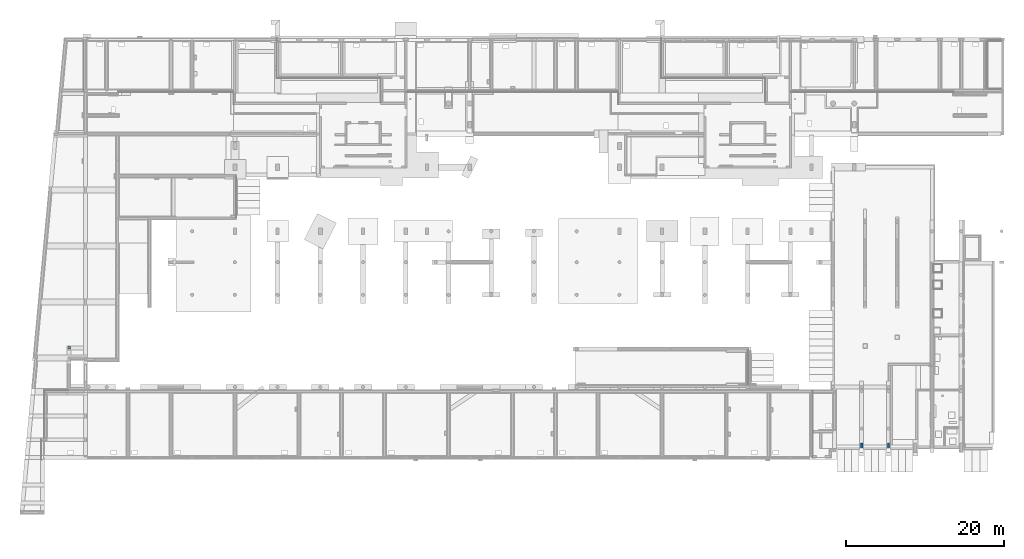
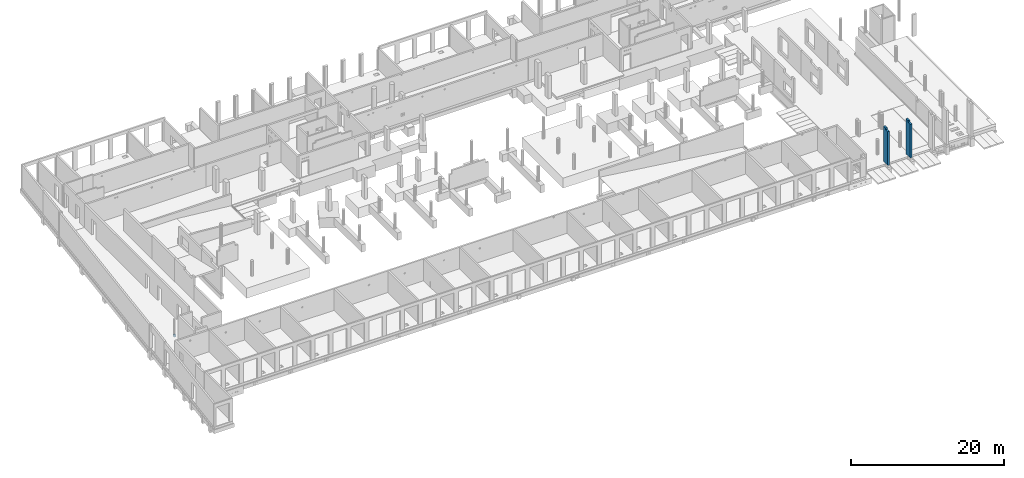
# One storey, part 16 of 60: 3 columns.
"""IFC2X3 building model written with IfcOpenShell, lengths in millimetres."""

from ifc_helpers import new_model, entity, si_unit, converted_unit, derived_unit, direction, frame, frame_2d, origin, place, context, subcontext, project, spatial, rectangle, extrude, faceted_brep, source, transform, mapped, material, type_object, type_shapes, element, save


model = new_model("IFC2X3")

# Units and contexts
model_context = context("Model", 3, precision=0.01, world=origin(), true_north=direction((6.12303176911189e-17, 1.0)))
body_context = subcontext(model_context, "Body", "Model", "MODEL_VIEW")
ifc_project = project(units=[si_unit("LENGTHUNIT", "METRE", prefix="MILLI"), si_unit("AREAUNIT", "SQUARE_METRE"), si_unit("VOLUMEUNIT", "CUBIC_METRE"), converted_unit("PLANEANGLEUNIT", "DEGREE", entity("IfcRatioMeasure", 0.0174532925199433), si_unit("PLANEANGLEUNIT", "RADIAN"), dimensions=[0, 0, 0, 0, 0, 0, 0]), si_unit("MASSUNIT", "GRAM", prefix="KILO"), derived_unit("MASSDENSITYUNIT", [(si_unit("MASSUNIT", "GRAM", prefix="KILO"), 1), (si_unit("LENGTHUNIT", "METRE"), -3)]), si_unit("TIMEUNIT", "SECOND"), si_unit("FREQUENCYUNIT", "HERTZ"), si_unit("THERMODYNAMICTEMPERATUREUNIT", "DEGREE_CELSIUS"), derived_unit("THERMALTRANSMITTANCEUNIT", [(si_unit("MASSUNIT", "GRAM", prefix="KILO"), 1), (si_unit("THERMODYNAMICTEMPERATUREUNIT", "KELVIN"), -1), (si_unit("TIMEUNIT", "SECOND"), -3)]), derived_unit("VOLUMETRICFLOWRATEUNIT", [(si_unit("LENGTHUNIT", "METRE"), 3), (si_unit("TIMEUNIT", "SECOND"), -1)]), si_unit("ELECTRICCURRENTUNIT", "AMPERE"), si_unit("ELECTRICVOLTAGEUNIT", "VOLT"), si_unit("POWERUNIT", "WATT"), si_unit("FORCEUNIT", "NEWTON", prefix="KILO"), si_unit("ILLUMINANCEUNIT", "LUX"), si_unit("LUMINOUSFLUXUNIT", "LUMEN"), si_unit("LUMINOUSINTENSITYUNIT", "CANDELA"), derived_unit("USERDEFINED", [(si_unit("MASSUNIT", "GRAM", prefix="KILO"), -1), (si_unit("LENGTHUNIT", "METRE"), -2), (si_unit("TIMEUNIT", "SECOND"), 3), (si_unit("LUMINOUSFLUXUNIT", "LUMEN"), 1)]), derived_unit("LINEARVELOCITYUNIT", [(si_unit("LENGTHUNIT", "METRE"), 1), (si_unit("TIMEUNIT", "SECOND"), -1)]), si_unit("PRESSUREUNIT", "PASCAL"), derived_unit("USERDEFINED", [(si_unit("LENGTHUNIT", "METRE"), -2), (si_unit("MASSUNIT", "GRAM", prefix="KILO"), 1), (si_unit("TIMEUNIT", "SECOND"), -2)])], contexts=[model_context])

# Site, building, storey
site_placement = place(None, origin())
site = spatial("IfcSite", under=ifc_project, at=site_placement, Name="Default", CompositionType="ELEMENT")
building_placement = place(site_placement, origin())
building = spatial("IfcBuilding", under=site, at=building_placement, Name="niet gebruiken", CompositionType="ELEMENT")
storey_placement = place(building_placement, origin())
storey = spatial("IfcBuildingStorey", under=building, at=storey_placement, Name="00 begane grond", CompositionType="ELEMENT", Elevation=0.0)

# Columns
ifc_material_1 = material(Name="NLRS_f2_beton prefab")
column_type_1 = type_object("IfcColumnType", Name="300x1100", PredefinedType="COLUMN", material=ifc_material_1)
shared_shape_1 = source(origin(), body_context, "Body", "Brep", [
    faceted_brep([(0.0, 0.0, 0.0), (300.0, 0.0, 0.0), (300.0, 0.0, 5360.0), (0.0, 0.0, 5360.0), (0.0, 1100.0, 5620.0), (300.0, 1100.0, 5620.0), (300.0, 1100.0, 0.0), (0.0, 1100.0, 0.0), (0.0, 570.0, 5620.0), (300.0, 570.0, 5620.0), (0.0, 570.0, 5360.0), (300.0, 570.0, 5360.0)], [[[0, 1, 2, 3]], [[4, 5, 6, 7]], [[5, 4, 8, 9]], [[6, 1, 0, 7]], [[7, 0, 3, 10, 8, 4]], [[1, 6, 5, 9, 11, 2]], [[10, 11, 9, 8]], [[11, 10, 3, 2]]]),
])
type_shapes(column_type_1, [shared_shape_1])
column_1_placement = place(storey_placement, frame((106050.000370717, 1000.0, -170.0)))
element("IfcColumn", 1, at=column_1_placement, inside=storey, type_object=column_type_1, material=ifc_material_1, Name="NLRS_28. kolom vierkant_gen1:300x1100", ObjectType="300x1100", context=body_context, shape_type="MappedRepresentation", body=[
    mapped(shared_shape_1, transform((0.0, 0.0, 0.0), scale=1.0)),
])
column_type_2 = type_object("IfcColumnType", Name="300x1100", PredefinedType="COLUMN", material=ifc_material_1)
shared_shape_2 = source(origin(), body_context, "Body", "Brep", [
    faceted_brep([(0.0, 0.0, 0.0), (300.0, 0.0, 0.0), (300.0, 0.0, 5360.0), (0.0, 0.0, 5360.0), (0.0, 1100.0, 5620.0), (300.0, 1100.0, 5620.0), (300.0, 1100.0, 0.0), (0.0, 1100.0, 0.0), (0.0, 570.0, 5620.0), (300.0, 570.0, 5620.0), (0.0, 570.0, 5360.0), (300.0, 570.0, 5360.0)], [[[0, 1, 2, 3]], [[4, 5, 6, 7]], [[5, 4, 8, 9]], [[6, 1, 0, 7]], [[7, 0, 3, 10, 8, 4]], [[1, 6, 5, 9, 11, 2]], [[10, 11, 9, 8]], [[11, 10, 3, 2]]]),
])
type_shapes(column_type_2, [shared_shape_2])
column_2_placement = place(storey_placement, frame((109450.000370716, 1000.0, -170.0)))
element("IfcColumn", 2, at=column_2_placement, inside=storey, type_object=column_type_2, material=ifc_material_1, Name="NLRS_28. kolom vierkant_gen1:300x1100", ObjectType="300x1100", context=body_context, shape_type="MappedRepresentation", body=[
    mapped(shared_shape_2, transform((0.0, 0.0, 0.0), scale=1.0)),
])
ifc_material_2 = material(Name="NLRS_f2_beton ihwg")
column_type_3 = type_object("IfcColumnType", Name="300x300 opstort", PredefinedType="COLUMN", material=ifc_material_2)
shared_shape_3 = source(origin(), body_context, "Body", "SweptSolid", [
    extrude(rectangle(XDim=299.999999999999, YDim=300.0, at=frame_2d((0.0, 5.40012479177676e-13), x_axis=(1.0, 0.0))), frame((6050.0, 14138.0, -402.0), z_axis=(0.0, 0.0, 1.0), x_axis=(0.0, -1.0, 0.0)), (0.0, 0.0, 1.0), 331.999999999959),
])
type_shapes(column_type_3, [shared_shape_3])
column_3_placement = place(storey_placement, origin())
element("IfcColumn", 3, at=column_3_placement, inside=storey, type_object=column_type_3, material=ifc_material_2, Name="NLRS_28.11_SCO_TLB_beton kolom ihwg_gen:300x300 opstort", ObjectType="300x300 opstort", context=body_context, shape_type="MappedRepresentation", body=[
    mapped(shared_shape_3, transform((0.0, 0.0, 0.0), scale=1.0)),
])

save(model, "model.ifc")
